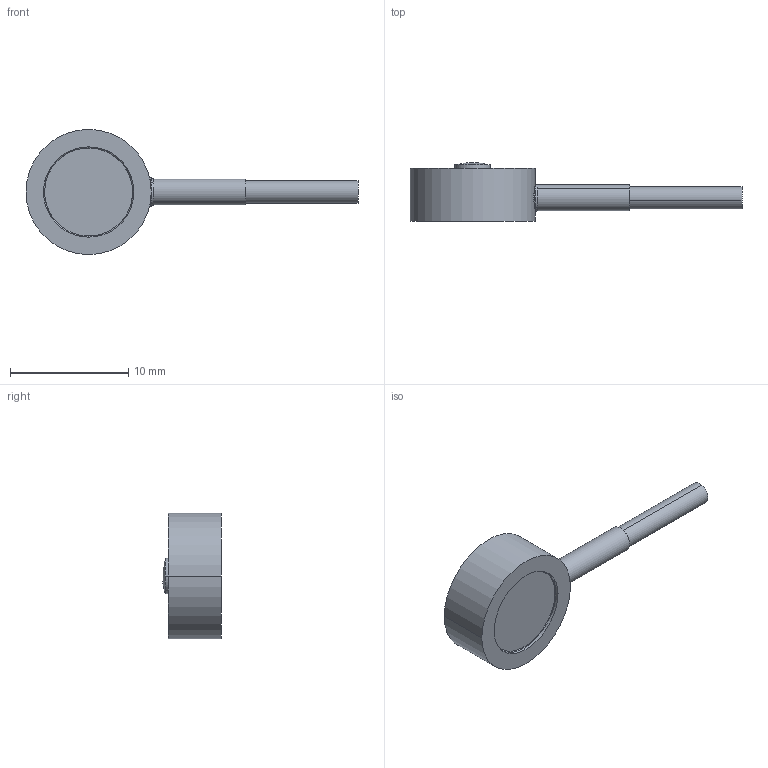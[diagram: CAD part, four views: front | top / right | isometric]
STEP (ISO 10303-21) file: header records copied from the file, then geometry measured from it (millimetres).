
FILE_DESCRIPTION(('STEP AP203'),'1');
FILE_NAME('C:/TPO v2/SharedFS/Outgoing/burster_8416-5100_dejkdx2kruon7u6byf6nrjz88.stp','2013-08-28T19:51:07',('TraceParts'),('TraceParts S.A.'),'XStep 1.0',' ',' ');
FILE_SCHEMA(('CONFIG_CONTROL_DESIGN'));
Length unit declared in the file: millimetre
Products named in the file (1): 1
Bounding box: 28.1 x 4.97 x 10.6 mm (x, y, z)
Volume: 430.7 mm3; surface area: 463.6 mm2
Topology: 1 solids, 1 shells, 40 faces, 98 edges, 65 vertices
Faces by surface type: cylinder 18, torus 10, plane 7, cone 4, sphere 1
Entity records: 1327 total; most frequent: CARTESIAN_POINT 278, DIRECTION 243, ORIENTED_EDGE 196, AXIS2_PLACEMENT_3D 112, EDGE_CURVE 98, CIRCLE 71, VERTEX_POINT 65, EDGE_LOOP 45
